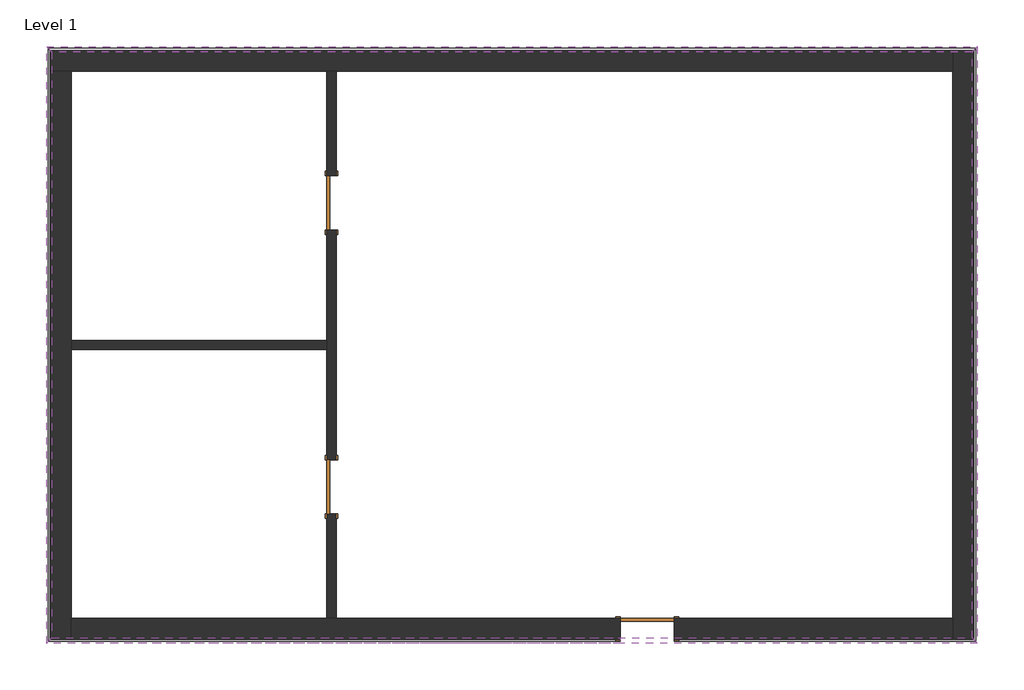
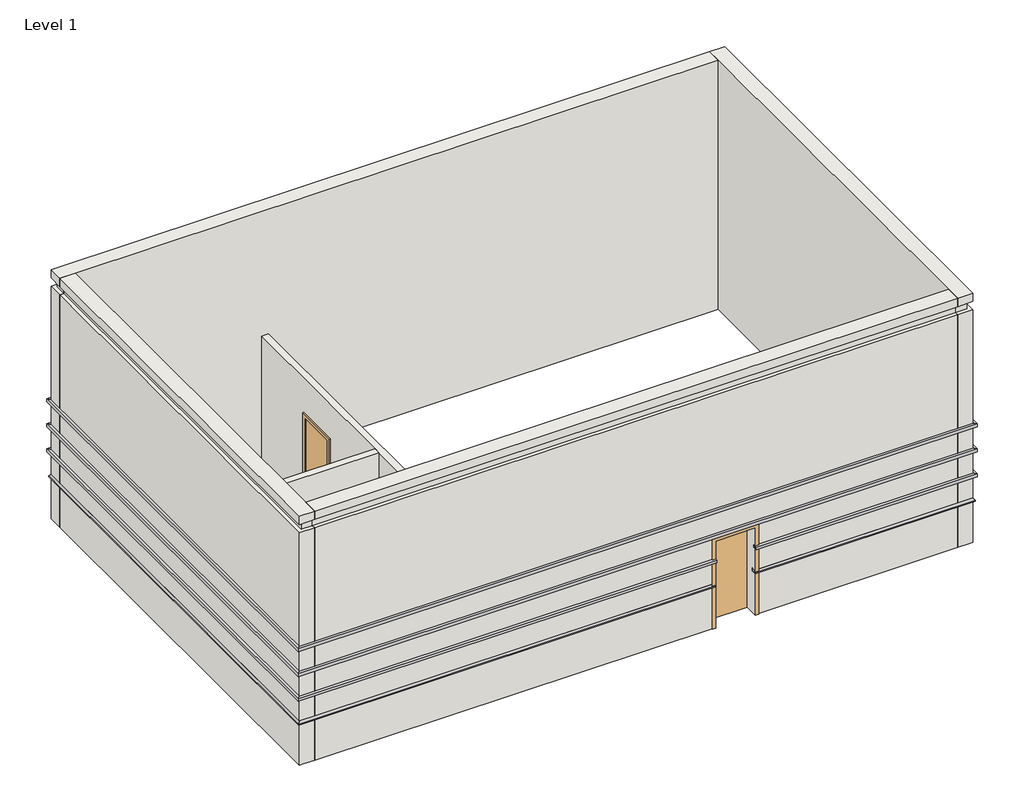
# One storey: 16 proxies, 6 walls, 3 doors.
"""IFC4 building model written with IfcOpenShell, lengths in millimetres."""

from ifc_helpers import new_model, si_unit, frame, origin, origin_with_axes, place, context, project, spatial, polyline, outline, extrude, faceted_brep, transform, mapped, element, save
from components import door_f9494b7c, door_632be17d

model = new_model("IFC4")

# Units and contexts
model_context = context("Model", 3, world=origin())
ifc_project = project(units=[si_unit("LENGTHUNIT", "METRE", prefix="MILLI")], contexts=[model_context])

# Site, building, storey
site = spatial("IfcSite", under=ifc_project)
building = spatial("IfcBuilding", under=site)
storey = spatial("IfcBuildingStorey", under=building, Name="Level 1", Elevation=0.0)

# Proxies
placement = place(None, origin())
element("IfcBuildingElementProxy", 1, Name="Reveals", at=placement, inside=storey, context=model_context, shape_type="SweptSolid", body=[
    extrude(outline(polyline([(-10122.8975534, 7875.7341008), (-10214.9725534, 7967.8091008), (5510.8024466, 7967.8091008), (5418.7274466, 7875.7341008), (-10122.8975534, 7875.7341008)])), frame((0.0, 0.0, 1625.6), z_axis=(0.0, 0.0, 1.0), x_axis=(1.0, 0.0, 0.0)), (0.0, 0.0, 1.0), 67.7333333),
])
element("IfcBuildingElementProxy", 2, Name="Reveals", at=placement, inside=storey, context=model_context, shape_type="SweptSolid", body=[
    extrude(outline(polyline([(-10122.8975534, 7875.7341008), (-10214.9725534, 7967.8091008), (5510.8024466, 7967.8091008), (5418.7274466, 7875.7341008), (-10122.8975534, 7875.7341008)])), frame((0.0, 0.0, 2235.2), z_axis=(0.0, 0.0, 1.0), x_axis=(1.0, 0.0, 0.0)), (0.0, 0.0, 1.0), 67.7333333),
])
element("IfcBuildingElementProxy", 3, Name="Reveals", at=placement, inside=storey, context=model_context, shape_type="SweptSolid", body=[
    extrude(outline(polyline([(-10122.8975534, 7875.7341008), (-10214.9725534, 7967.8091008), (5510.8024466, 7967.8091008), (5418.7274466, 7875.7341008), (-10122.8975534, 7875.7341008)])), frame((0.0, 0.0, 2844.8), z_axis=(0.0, 0.0, 1.0), x_axis=(1.0, 0.0, 0.0)), (0.0, 0.0, 1.0), 67.7333333),
])
element("IfcBuildingElementProxy", 4, Name="Wall Sweeps", at=placement, inside=storey, context=model_context, shape_type="Brep", body=[
    faceted_brep([(-10056.2225534, 7809.0591008, 1085.85), (-10148.2975534, 7901.1341008, 1085.85), (-10183.2225534, 7936.0591008, 1041.4), (-10183.2225534, 7936.0591008, 1016.0), (-10056.2225534, 7809.0591008, 1016.0), (5352.0524466, 7809.0591008, 1085.85), (5352.0524466, 7809.0591008, 1016.0), (5479.0524466, 7936.0591008, 1016.0), (5479.0524466, 7936.0591008, 1041.4), (5444.1274466, 7901.1341008, 1085.85)], [[[0, 1, 2, 3, 4]], [[5, 6, 7, 8, 9]], [[1, 0, 5, 9]], [[2, 1, 9, 8]], [[3, 2, 8, 7]], [[4, 3, 7, 6]], [[0, 4, 6, 5]]]),
])
element("IfcBuildingElementProxy", 5, Name="Reveals", at=placement, inside=storey, context=model_context, shape_type="SweptSolid", body=[
    extrude(outline(polyline([(-10122.8975534, -2027.0908992), (-10214.9725534, -2119.1658992), (-10214.9725534, 7967.8091008), (-10122.8975534, 7875.7341008), (-10122.8975534, -2027.0908992)])), frame((0.0, 0.0, 1625.6), z_axis=(0.0, 0.0, 1.0), x_axis=(1.0, 0.0, 0.0)), (0.0, 0.0, 1.0), 67.7333333),
])
element("IfcBuildingElementProxy", 6, Name="Reveals", at=placement, inside=storey, context=model_context, shape_type="SweptSolid", body=[
    extrude(outline(polyline([(-10122.8975534, -2027.0908992), (-10214.9725534, -2119.1658992), (-10214.9725534, 7967.8091008), (-10122.8975534, 7875.7341008), (-10122.8975534, -2027.0908992)])), frame((0.0, 0.0, 2235.2), z_axis=(0.0, 0.0, 1.0), x_axis=(1.0, 0.0, 0.0)), (0.0, 0.0, 1.0), 67.7333333),
])
element("IfcBuildingElementProxy", 7, Name="Reveals", at=placement, inside=storey, context=model_context, shape_type="SweptSolid", body=[
    extrude(outline(polyline([(-10122.8975534, -2027.0908992), (-10214.9725534, -2119.1658992), (-10214.9725534, 7967.8091008), (-10122.8975534, 7875.7341008), (-10122.8975534, -2027.0908992)])), frame((0.0, 0.0, 2844.8), z_axis=(0.0, 0.0, 1.0), x_axis=(1.0, 0.0, 0.0)), (0.0, 0.0, 1.0), 67.7333333),
])
element("IfcBuildingElementProxy", 8, Name="Wall Sweeps", at=placement, inside=storey, context=model_context, shape_type="Brep", body=[
    faceted_brep([(-10056.2225534, -1960.4158992, 1085.85), (-10148.2975534, -2052.4908992, 1085.85), (-10183.2225534, -2087.4158992, 1041.4), (-10183.2225534, -2087.4158992, 1016.0), (-10056.2225534, -1960.4158992, 1016.0), (-10056.2225534, 7809.0591008, 1085.85), (-10056.2225534, 7809.0591008, 1016.0), (-10183.2225534, 7936.0591008, 1016.0), (-10183.2225534, 7936.0591008, 1041.4), (-10148.2975534, 7901.1341008, 1085.85)], [[[0, 1, 2, 3, 4]], [[5, 6, 7, 8, 9]], [[1, 0, 5, 9]], [[2, 1, 9, 8]], [[3, 2, 8, 7]], [[4, 3, 7, 6]], [[0, 4, 6, 5]]]),
])
element("IfcBuildingElementProxy", 9, Name="Reveals", at=placement, inside=storey, context=model_context, shape_type="SweptSolid", body=[
    extrude(outline(polyline([(5418.7274466, -2027.0908992), (5510.8024466, -2119.1658992), (391.1149466, -2119.1658992), (391.1149466, -2027.0908992), (5418.7274466, -2027.0908992)])), frame((0.0, 0.0, 1625.6), z_axis=(0.0, 0.0, 1.0), x_axis=(1.0, 0.0, 0.0)), (0.0, 0.0, 1.0), 67.7333333),
    extrude(outline(polyline([(-523.2850534, -2027.0908992), (-523.2850534, -2119.1658992), (-10214.9725534, -2119.1658992), (-10122.8975534, -2027.0908992), (-523.2850534, -2027.0908992)])), frame((0.0, 0.0, 1625.6), z_axis=(0.0, 0.0, 1.0), x_axis=(1.0, 0.0, 0.0)), (0.0, 0.0, 1.0), 67.7333333),
])
element("IfcBuildingElementProxy", 10, Name="Reveals", at=placement, inside=storey, context=model_context, shape_type="SweptSolid", body=[
    extrude(outline(polyline([(5418.7274466, -2027.0908992), (5510.8024466, -2119.1658992), (-10214.9725534, -2119.1658992), (-10122.8975534, -2027.0908992), (5418.7274466, -2027.0908992)])), frame((0.0, 0.0, 2235.2), z_axis=(0.0, 0.0, 1.0), x_axis=(1.0, 0.0, 0.0)), (0.0, 0.0, 1.0), 67.7333333),
])
element("IfcBuildingElementProxy", 11, Name="Reveals", at=placement, inside=storey, context=model_context, shape_type="SweptSolid", body=[
    extrude(outline(polyline([(5418.7274466, -2027.0908992), (5510.8024466, -2119.1658992), (-10214.9725534, -2119.1658992), (-10122.8975534, -2027.0908992), (5418.7274466, -2027.0908992)])), frame((0.0, 0.0, 2844.8), z_axis=(0.0, 0.0, 1.0), x_axis=(1.0, 0.0, 0.0)), (0.0, 0.0, 1.0), 67.7333333),
])
element("IfcBuildingElementProxy", 12, Name="Wall Sweeps", at=placement, inside=storey, context=model_context, shape_type="Brep", body=[
    faceted_brep([(5352.0524466, -1960.4158992, 1085.85), (5444.1274466, -2052.4908992, 1085.85), (5479.0524466, -2087.4158992, 1041.4), (5479.0524466, -2087.4158992, 1016.0), (5352.0524466, -1960.4158992, 1016.0), (391.1149466, -1960.4158992, 1085.85), (391.1149466, -1960.4158992, 1016.0), (391.1149466, -2052.4908992, 1016.0), (391.1149466, -2087.4158992, 1016.0), (391.1149466, -2087.4158992, 1041.4), (391.1149466, -2052.4908992, 1085.85)], [[[0, 1, 2, 3, 4]], [[5, 6, 7, 8, 9, 10]], [[1, 0, 5, 10]], [[2, 1, 10, 9]], [[3, 2, 9, 8]], [[4, 3, 8, 7, 6]], [[0, 4, 6, 5]]]),
    faceted_brep([(-523.2850534, -1960.4158992, 1085.85), (-523.2850534, -2052.4908992, 1085.85), (-523.2850534, -2087.4158992, 1041.4), (-523.2850534, -2087.4158992, 1016.0), (-523.2850534, -2052.4908992, 1016.0), (-523.2850534, -1960.4158992, 1016.0), (-10056.2225534, -1960.4158992, 1085.85), (-10056.2225534, -1960.4158992, 1016.0), (-10183.2225534, -2087.4158992, 1016.0), (-10183.2225534, -2087.4158992, 1041.4), (-10148.2975534, -2052.4908992, 1085.85)], [[[0, 1, 2, 3, 4, 5]], [[6, 7, 8, 9, 10]], [[1, 0, 6, 10]], [[2, 1, 10, 9]], [[3, 2, 9, 8]], [[5, 4, 3, 8, 7]], [[0, 5, 7, 6]]]),
])
element("IfcBuildingElementProxy", 13, Name="Reveals", at=placement, inside=storey, context=model_context, shape_type="SweptSolid", body=[
    extrude(outline(polyline([(5418.7274466, 7875.7341008), (5510.8024466, 7967.8091008), (5510.8024466, -2119.1658992), (5418.7274466, -2027.0908992), (5418.7274466, 7875.7341008)])), frame((0.0, 0.0, 1625.6), z_axis=(0.0, 0.0, 1.0), x_axis=(1.0, 0.0, 0.0)), (0.0, 0.0, 1.0), 67.7333333),
])
element("IfcBuildingElementProxy", 14, Name="Reveals", at=placement, inside=storey, context=model_context, shape_type="SweptSolid", body=[
    extrude(outline(polyline([(5418.7274466, 7875.7341008), (5510.8024466, 7967.8091008), (5510.8024466, -2119.1658992), (5418.7274466, -2027.0908992), (5418.7274466, 7875.7341008)])), frame((0.0, 0.0, 2235.2), z_axis=(0.0, 0.0, 1.0), x_axis=(1.0, 0.0, 0.0)), (0.0, 0.0, 1.0), 67.7333333),
])
element("IfcBuildingElementProxy", 15, Name="Reveals", at=placement, inside=storey, context=model_context, shape_type="SweptSolid", body=[
    extrude(outline(polyline([(5418.7274466, 7875.7341008), (5510.8024466, 7967.8091008), (5510.8024466, -2119.1658992), (5418.7274466, -2027.0908992), (5418.7274466, 7875.7341008)])), frame((0.0, 0.0, 2844.8), z_axis=(0.0, 0.0, 1.0), x_axis=(1.0, 0.0, 0.0)), (0.0, 0.0, 1.0), 67.7333333),
])
element("IfcBuildingElementProxy", 16, Name="Wall Sweeps", at=placement, inside=storey, context=model_context, shape_type="Brep", body=[
    faceted_brep([(5352.0524466, 7809.0591008, 1085.85), (5444.1274466, 7901.1341008, 1085.85), (5479.0524466, 7936.0591008, 1041.4), (5479.0524466, 7936.0591008, 1016.0), (5352.0524466, 7809.0591008, 1016.0), (5352.0524466, -1960.4158992, 1085.85), (5352.0524466, -1960.4158992, 1016.0), (5479.0524466, -2087.4158992, 1016.0), (5479.0524466, -2087.4158992, 1041.4), (5444.1274466, -2052.4908992, 1085.85)], [[[0, 1, 2, 3, 4]], [[5, 6, 7, 8, 9]], [[1, 0, 5, 9]], [[2, 1, 9, 8]], [[3, 2, 8, 7]], [[4, 3, 7, 6]], [[0, 4, 6, 5]]]),
])

# Doors
door_shape = door_f9494b7c(model_context)
element("IfcDoor", 17, ObjectType="Single-Flush : 36\" x 84\"", at=placement, inside=storey, context=model_context, shape_type="MappedRepresentation", body=[
    mapped(door_shape, transform((-5400.0850534, 5324.6216008, 0.0), x_axis=(0.0, 1.0, 0.0), y_axis=(-1.0, 0.0, 0.0), z_axis=(0.0, 0.0, 1.0))),
])
element("IfcDoor", 18, ObjectType="Single-Flush : 36\" x 84\"", at=placement, inside=storey, context=model_context, shape_type="MappedRepresentation", body=[
    mapped(door_shape, transform((-5400.0850534, 524.0216008, 0.0), x_axis=(0.0, 1.0, 0.0), y_axis=(-1.0, 0.0, 0.0), z_axis=(0.0, 0.0, 1.0))),
])
door_2_shape = door_632be17d(model_context)
element("IfcDoor", 19, ObjectType="Single-Flush : 36\" x 84\"", at=placement, inside=storey, context=model_context, shape_type="MappedRepresentation", body=[
    mapped(door_2_shape, transform((-66.0850534, -1876.2783992, 0.0), x_axis=(1.0, 0.0, 0.0), y_axis=(0.0, 1.0, 0.0), z_axis=(0.0, 0.0, 1.0))),
])

# Walls
element("IfcWall", 20, ObjectType="Exterior - Brick and CMU on MTL. Stud", at=placement, inside=storey, context=model_context, shape_type="Brep", body=[
    faceted_brep([(-10148.2975534, 7548.7091008, 0.0), (-9795.8725534, 7548.7091008, 0.0), (-5477.8725534, 7548.7091008, 0.0), (-5322.2975534, 7548.7091008, 0.0), (5091.7024466, 7548.7091008, 0.0), (5091.7024466, 7548.7091008, 6096.0), (-9795.8725534, 7548.7091008, 6096.0), (-10148.2975534, 7548.7091008, 6096.0), (-10148.2975534, 7548.7091008, 5892.8), (-10056.2225534, 7548.7091008, 5892.8), (-10056.2225534, 7548.7091008, 5689.6), (-10148.2975534, 7548.7091008, 5689.6), (-10148.2975534, 7548.7091008, 2912.5333333), (-10122.8975534, 7548.7091008, 2912.5333333), (-10122.8975534, 7548.7091008, 2844.8), (-10148.2975534, 7548.7091008, 2844.8), (-10148.2975534, 7548.7091008, 2302.9333333), (-10122.8975534, 7548.7091008, 2302.9333333), (-10122.8975534, 7548.7091008, 2235.2), (-10148.2975534, 7548.7091008, 2235.2), (-10148.2975534, 7548.7091008, 1693.3333333), (-10122.8975534, 7548.7091008, 1693.3333333), (-10122.8975534, 7548.7091008, 1625.6), (-10148.2975534, 7548.7091008, 1625.6), (-10148.2975534, 7548.7091008, 1085.85), (-10056.2225534, 7548.7091008, 1085.85), (-10056.2225534, 7548.7091008, 1016.0), (-10148.2975534, 7548.7091008, 1016.0), (-10148.2975534, 7901.1341008, 6096.0), (5091.7024466, 7901.1341008, 6096.0), (5091.7024466, 7901.1341008, 5892.8), (-10148.2975534, 7901.1341008, 5892.8), (5091.7024466, 7901.1341008, 0.0), (-10148.2975534, 7901.1341008, 0.0), (-10148.2975534, 7901.1341008, 1016.0), (5091.7024466, 7901.1341008, 1016.0), (5091.7024466, 7901.1341008, 1693.3333333), (-10148.2975534, 7901.1341008, 1693.3333333), (-10148.2975534, 7901.1341008, 2235.2), (5091.7024466, 7901.1341008, 2235.2), (-10148.2975534, 7901.1341008, 1625.6), (5091.7024466, 7901.1341008, 1625.6), (5091.7024466, 7901.1341008, 1085.85), (-10148.2975534, 7901.1341008, 1085.85), (5091.7024466, 7901.1341008, 2302.9333333), (-10148.2975534, 7901.1341008, 2302.9333333), (-10148.2975534, 7901.1341008, 2844.8), (5091.7024466, 7901.1341008, 2844.8), (5091.7024466, 7901.1341008, 2912.5333333), (-10148.2975534, 7901.1341008, 2912.5333333), (-10148.2975534, 7901.1341008, 5689.6), (5091.7024466, 7901.1341008, 5689.6), (-10148.2975534, 7809.0591008, 0.0), (5091.7024466, 7809.0591008, 0.0), (5091.7024466, 7809.0591008, 1016.0), (5091.7024466, 7809.0591008, 1085.85), (5091.7024466, 7875.7341008, 1625.6), (5091.7024466, 7875.7341008, 1693.3333333), (5091.7024466, 7875.7341008, 2235.2), (5091.7024466, 7875.7341008, 2302.9333333), (5091.7024466, 7875.7341008, 2844.8), (5091.7024466, 7875.7341008, 2912.5333333), (5091.7024466, 7809.0591008, 5689.6), (5091.7024466, 7809.0591008, 5892.8), (-10122.8975534, 7875.7341008, 1693.3333333), (-10122.8975534, 7875.7341008, 1625.6), (-10122.8975534, 7875.7341008, 2302.9333333), (-10122.8975534, 7875.7341008, 2235.2), (-10122.8975534, 7875.7341008, 2912.5333333), (-10122.8975534, 7875.7341008, 2844.8), (-10056.2225534, 7809.0591008, 1085.85), (-10056.2225534, 7809.0591008, 1016.0), (-10056.2225534, 7809.0591008, 5689.6), (-10056.2225534, 7809.0591008, 5892.8)], [[[0, 1, 2, 3, 4, 5, 6, 7, 8, 9, 10, 11, 12, 13, 14, 15, 16, 17, 18, 19, 20, 21, 22, 23, 24, 25, 26, 27]], [[28, 29, 30, 31]], [[32, 33, 34, 35]], [[36, 37, 38, 39]], [[40, 41, 42, 43]], [[44, 45, 46, 47]], [[48, 49, 50, 51]], [[7, 6, 5, 29, 28]], [[7, 28, 31, 8]], [[52, 0, 27, 34, 33]], [[37, 20, 19, 38]], [[23, 40, 43, 24]], [[45, 16, 15, 46]], [[49, 12, 11, 50]], [[5, 4, 53, 32, 35, 54, 55, 42, 41, 56, 57, 36, 39, 58, 59, 44, 47, 60, 61, 48, 51, 62, 63, 30, 29]], [[4, 3, 2, 1, 0, 52, 53]], [[52, 33, 32, 53]], [[57, 64, 21, 20, 37, 36]], [[65, 56, 41, 40, 23, 22]], [[64, 65, 22, 21]], [[65, 64, 57, 56]], [[59, 66, 17, 16, 45, 44]], [[67, 58, 39, 38, 19, 18]], [[66, 67, 18, 17]], [[67, 66, 59, 58]], [[61, 68, 13, 12, 49, 48]], [[69, 60, 47, 46, 15, 14]], [[68, 69, 14, 13]], [[69, 68, 61, 60]], [[55, 70, 25, 24, 43, 42]], [[71, 54, 35, 34, 27, 26]], [[70, 71, 26, 25]], [[71, 70, 55, 54]], [[72, 62, 51, 50, 11, 10]], [[73, 72, 10, 9]], [[63, 73, 9, 8, 31, 30]], [[72, 73, 63, 62]]]),
])
element("IfcWall", 21, ObjectType="Exterior - Brick and CMU on MTL. Stud", at=placement, inside=storey, context=model_context, shape_type="Brep", body=[
    faceted_brep([(-9795.8725534, -2052.4908992, 0.0), (-9795.8725534, -1700.0658992, 0.0), (-9795.8725534, 2846.5341008, 0.0), (-9795.8725534, 3002.1091008, 0.0), (-9795.8725534, 7548.7091008, 0.0), (-9795.8725534, 7548.7091008, 6096.0), (-9795.8725534, -1700.0658992, 6096.0), (-9795.8725534, -2052.4908992, 6096.0), (-9795.8725534, -2052.4908992, 5892.8), (-9795.8725534, -1960.4158992, 5892.8), (-9795.8725534, -1960.4158992, 5689.6), (-9795.8725534, -2052.4908992, 5689.6), (-9795.8725534, -2052.4908992, 2912.5333333), (-9795.8725534, -2027.0908992, 2912.5333333), (-9795.8725534, -2027.0908992, 2844.8), (-9795.8725534, -2052.4908992, 2844.8), (-9795.8725534, -2052.4908992, 2302.9333333), (-9795.8725534, -2027.0908992, 2302.9333333), (-9795.8725534, -2027.0908992, 2235.2), (-9795.8725534, -2052.4908992, 2235.2), (-9795.8725534, -2052.4908992, 1693.3333333), (-9795.8725534, -2027.0908992, 1693.3333333), (-9795.8725534, -2027.0908992, 1625.6), (-9795.8725534, -2052.4908992, 1625.6), (-9795.8725534, -2052.4908992, 1085.85), (-9795.8725534, -1960.4158992, 1085.85), (-9795.8725534, -1960.4158992, 1016.0), (-9795.8725534, -2052.4908992, 1016.0), (-10148.2975534, -2052.4908992, 6096.0), (-10148.2975534, 7548.7091008, 6096.0), (-10148.2975534, 7548.7091008, 5892.8), (-10148.2975534, -2052.4908992, 5892.8), (-10148.2975534, 7548.7091008, 0.0), (-10148.2975534, -2052.4908992, 0.0), (-10148.2975534, -2052.4908992, 1016.0), (-10148.2975534, 7548.7091008, 1016.0), (-10148.2975534, 7548.7091008, 1693.3333333), (-10148.2975534, -2052.4908992, 1693.3333333), (-10148.2975534, -2052.4908992, 2235.2), (-10148.2975534, 7548.7091008, 2235.2), (-10148.2975534, -2052.4908992, 1625.6), (-10148.2975534, 7548.7091008, 1625.6), (-10148.2975534, 7548.7091008, 1085.85), (-10148.2975534, -2052.4908992, 1085.85), (-10148.2975534, 7548.7091008, 2302.9333333), (-10148.2975534, -2052.4908992, 2302.9333333), (-10148.2975534, -2052.4908992, 2844.8), (-10148.2975534, 7548.7091008, 2844.8), (-10148.2975534, 7548.7091008, 2912.5333333), (-10148.2975534, -2052.4908992, 2912.5333333), (-10148.2975534, -2052.4908992, 5689.6), (-10148.2975534, 7548.7091008, 5689.6), (-10056.2225534, -2052.4908992, 0.0), (-10056.2225534, 7548.7091008, 0.0), (-10056.2225534, 7548.7091008, 1016.0), (-10056.2225534, 7548.7091008, 1085.85), (-10122.8975534, 7548.7091008, 1625.6), (-10122.8975534, 7548.7091008, 1693.3333333), (-10122.8975534, 7548.7091008, 2235.2), (-10122.8975534, 7548.7091008, 2302.9333333), (-10122.8975534, 7548.7091008, 2844.8), (-10122.8975534, 7548.7091008, 2912.5333333), (-10056.2225534, 7548.7091008, 5689.6), (-10056.2225534, 7548.7091008, 5892.8), (-10122.8975534, -2027.0908992, 1693.3333333), (-10122.8975534, -2027.0908992, 1625.6), (-10122.8975534, -2027.0908992, 2302.9333333), (-10122.8975534, -2027.0908992, 2235.2), (-10122.8975534, -2027.0908992, 2912.5333333), (-10122.8975534, -2027.0908992, 2844.8), (-10056.2225534, -1960.4158992, 1085.85), (-10056.2225534, -1960.4158992, 1016.0), (-10056.2225534, -1960.4158992, 5689.6), (-10056.2225534, -1960.4158992, 5892.8)], [[[0, 1, 2, 3, 4, 5, 6, 7, 8, 9, 10, 11, 12, 13, 14, 15, 16, 17, 18, 19, 20, 21, 22, 23, 24, 25, 26, 27]], [[28, 29, 30, 31]], [[32, 33, 34, 35]], [[36, 37, 38, 39]], [[40, 41, 42, 43]], [[44, 45, 46, 47]], [[48, 49, 50, 51]], [[7, 6, 5, 29, 28]], [[7, 28, 31, 8]], [[52, 0, 27, 34, 33]], [[37, 20, 19, 38]], [[23, 40, 43, 24]], [[45, 16, 15, 46]], [[49, 12, 11, 50]], [[5, 4, 53, 32, 35, 54, 55, 42, 41, 56, 57, 36, 39, 58, 59, 44, 47, 60, 61, 48, 51, 62, 63, 30, 29]], [[4, 3, 2, 1, 0, 52, 53]], [[52, 33, 32, 53]], [[57, 64, 21, 20, 37, 36]], [[65, 56, 41, 40, 23, 22]], [[64, 65, 22, 21]], [[65, 64, 57, 56]], [[59, 66, 17, 16, 45, 44]], [[67, 58, 39, 38, 19, 18]], [[66, 67, 18, 17]], [[67, 66, 59, 58]], [[61, 68, 13, 12, 49, 48]], [[69, 60, 47, 46, 15, 14]], [[68, 69, 14, 13]], [[69, 68, 61, 60]], [[55, 70, 25, 24, 43, 42]], [[71, 54, 35, 34, 27, 26]], [[70, 71, 26, 25]], [[71, 70, 55, 54]], [[72, 62, 51, 50, 11, 10]], [[73, 72, 10, 9]], [[63, 73, 9, 8, 31, 30]], [[72, 73, 63, 62]]]),
])
element("IfcWall", 22, ObjectType="Exterior - Brick and CMU on MTL. Stud", at=placement, inside=storey, context=model_context, shape_type="Brep", body=[
    faceted_brep([(-9795.8725534, -1700.0658992, 6096.0), (5091.7024466, -1700.0658992, 6096.0), (5091.7024466, -1700.0658992, 0.0), (391.1149466, -1700.0658992, 0.0), (391.1149466, -1700.0658992, 2133.6), (-523.2850534, -1700.0658992, 2133.6), (-523.2850534, -1700.0658992, 0.0), (-5322.2975534, -1700.0658992, 0.0), (-5477.8725534, -1700.0658992, 0.0), (-9795.8725534, -1700.0658992, 0.0), (5091.7024466, -2052.4908992, 6096.0), (-9795.8725534, -2052.4908992, 6096.0), (-9795.8725534, -2052.4908992, 5892.8), (5091.7024466, -2052.4908992, 5892.8), (391.1149466, -2052.4908992, 0.0), (5091.7024466, -2052.4908992, 0.0), (5091.7024466, -2052.4908992, 1016.0), (391.1149466, -2052.4908992, 1016.0), (-9795.8725534, -2052.4908992, 0.0), (-523.2850534, -2052.4908992, 0.0), (-523.2850534, -2052.4908992, 1016.0), (-9795.8725534, -2052.4908992, 1016.0), (-523.2850534, -2052.4908992, 2133.6), (391.1149466, -2052.4908992, 2133.6), (391.1149466, -2052.4908992, 1693.3333333), (5091.7024466, -2052.4908992, 1693.3333333), (5091.7024466, -2052.4908992, 2235.2), (-9795.8725534, -2052.4908992, 2235.2), (-9795.8725534, -2052.4908992, 1693.3333333), (-523.2850534, -2052.4908992, 1693.3333333), (-523.2850534, -2052.4908992, 1625.6), (-9795.8725534, -2052.4908992, 1625.6), (-9795.8725534, -2052.4908992, 1085.85), (-523.2850534, -2052.4908992, 1085.85), (5091.7024466, -2052.4908992, 1625.6), (391.1149466, -2052.4908992, 1625.6), (391.1149466, -2052.4908992, 1085.85), (5091.7024466, -2052.4908992, 1085.85), (-9795.8725534, -2052.4908992, 2302.9333333), (5091.7024466, -2052.4908992, 2302.9333333), (5091.7024466, -2052.4908992, 2844.8), (-9795.8725534, -2052.4908992, 2844.8), (-9795.8725534, -2052.4908992, 2912.5333333), (5091.7024466, -2052.4908992, 2912.5333333), (5091.7024466, -2052.4908992, 5689.6), (-9795.8725534, -2052.4908992, 5689.6), (-9795.8725534, -1960.4158992, 0.0), (-9795.8725534, -1960.4158992, 1016.0), (-9795.8725534, -1960.4158992, 1085.85), (-9795.8725534, -2027.0908992, 1625.6), (-9795.8725534, -2027.0908992, 1693.3333333), (-9795.8725534, -2027.0908992, 2235.2), (-9795.8725534, -2027.0908992, 2302.9333333), (-9795.8725534, -2027.0908992, 2844.8), (-9795.8725534, -2027.0908992, 2912.5333333), (-9795.8725534, -1960.4158992, 5689.6), (-9795.8725534, -1960.4158992, 5892.8), (5091.7024466, -1960.4158992, 5892.8), (5091.7024466, -1960.4158992, 5689.6), (5091.7024466, -2027.0908992, 2912.5333333), (5091.7024466, -2027.0908992, 2844.8), (5091.7024466, -2027.0908992, 2302.9333333), (5091.7024466, -2027.0908992, 2235.2), (5091.7024466, -2027.0908992, 1693.3333333), (5091.7024466, -2027.0908992, 1625.6), (5091.7024466, -1960.4158992, 1085.85), (5091.7024466, -1960.4158992, 1016.0), (5091.7024466, -1960.4158992, 0.0), (-523.2850534, -1960.4158992, 0.0), (391.1149466, -1960.4158992, 0.0), (391.1149466, -1960.4158992, 1016.0), (391.1149466, -1960.4158992, 1085.85), (391.1149466, -2027.0908992, 1625.6), (391.1149466, -2027.0908992, 1693.3333333), (-523.2850534, -2027.0908992, 1693.3333333), (-523.2850534, -2027.0908992, 1625.6), (-523.2850534, -1960.4158992, 1085.85), (-523.2850534, -1960.4158992, 1016.0)], [[[0, 1, 2, 3, 4, 5, 6, 7, 8, 9]], [[10, 11, 12, 13]], [[14, 15, 16, 17]], [[18, 19, 20, 21]], [[22, 23, 24, 25, 26, 27, 28, 29]], [[30, 31, 32, 33]], [[34, 35, 36, 37]], [[38, 39, 40, 41]], [[42, 43, 44, 45]], [[1, 0, 11, 10]], [[0, 9, 46, 18, 21, 47, 48, 32, 31, 49, 50, 28, 27, 51, 52, 38, 41, 53, 54, 42, 45, 55, 56, 12, 11]], [[2, 1, 10, 13, 57, 58, 44, 43, 59, 60, 40, 39, 61, 62, 26, 25, 63, 64, 34, 37, 65, 66, 16, 15, 67]], [[46, 9, 8, 7, 6, 68]], [[2, 67, 69, 3]], [[67, 15, 14, 69]], [[18, 46, 68, 19]], [[23, 4, 3, 69, 14, 17, 70, 71, 36, 35, 72, 73, 24]], [[4, 23, 22, 5]], [[5, 22, 29, 74, 75, 30, 33, 76, 77, 20, 19, 68, 6]], [[73, 63, 25, 24]], [[64, 72, 35, 34]], [[63, 73, 72, 64]], [[50, 74, 29, 28]], [[75, 49, 31, 30]], [[74, 50, 49, 75]], [[52, 61, 39, 38]], [[62, 51, 27, 26]], [[51, 62, 61, 52]], [[54, 59, 43, 42]], [[60, 53, 41, 40]], [[53, 60, 59, 54]], [[71, 65, 37, 36]], [[66, 70, 17, 16]], [[65, 71, 70, 66]], [[48, 76, 33, 32]], [[77, 47, 21, 20]], [[76, 48, 47, 77]], [[58, 55, 45, 44]], [[56, 57, 13, 12]], [[55, 58, 57, 56]]]),
])
element("IfcWall", 23, ObjectType="Exterior - Brick and CMU on MTL. Stud", at=placement, inside=storey, context=model_context, shape_type="Brep", body=[
    faceted_brep([(5091.7024466, 7901.1341008, 0.0), (5091.7024466, 7548.7091008, 0.0), (5091.7024466, -1700.0658992, 0.0), (5091.7024466, -2052.4908992, 0.0), (5091.7024466, -2052.4908992, 1016.0), (5091.7024466, -1960.4158992, 1016.0), (5091.7024466, -1960.4158992, 1085.85), (5091.7024466, -2052.4908992, 1085.85), (5091.7024466, -2052.4908992, 1625.6), (5091.7024466, -2027.0908992, 1625.6), (5091.7024466, -2027.0908992, 1693.3333333), (5091.7024466, -2052.4908992, 1693.3333333), (5091.7024466, -2052.4908992, 2235.2), (5091.7024466, -2027.0908992, 2235.2), (5091.7024466, -2027.0908992, 2302.9333333), (5091.7024466, -2052.4908992, 2302.9333333), (5091.7024466, -2052.4908992, 2844.8), (5091.7024466, -2027.0908992, 2844.8), (5091.7024466, -2027.0908992, 2912.5333333), (5091.7024466, -2052.4908992, 2912.5333333), (5091.7024466, -2052.4908992, 5689.6), (5091.7024466, -1960.4158992, 5689.6), (5091.7024466, -1960.4158992, 5892.8), (5091.7024466, -2052.4908992, 5892.8), (5091.7024466, -2052.4908992, 6096.0), (5091.7024466, -1700.0658992, 6096.0), (5091.7024466, 7548.7091008, 6096.0), (5091.7024466, 7901.1341008, 6096.0), (5091.7024466, 7901.1341008, 5892.8), (5091.7024466, 7809.0591008, 5892.8), (5091.7024466, 7809.0591008, 5689.6), (5091.7024466, 7901.1341008, 5689.6), (5091.7024466, 7901.1341008, 2912.5333333), (5091.7024466, 7875.7341008, 2912.5333333), (5091.7024466, 7875.7341008, 2844.8), (5091.7024466, 7901.1341008, 2844.8), (5091.7024466, 7901.1341008, 2302.9333333), (5091.7024466, 7875.7341008, 2302.9333333), (5091.7024466, 7875.7341008, 2235.2), (5091.7024466, 7901.1341008, 2235.2), (5091.7024466, 7901.1341008, 1693.3333333), (5091.7024466, 7875.7341008, 1693.3333333), (5091.7024466, 7875.7341008, 1625.6), (5091.7024466, 7901.1341008, 1625.6), (5091.7024466, 7901.1341008, 1085.85), (5091.7024466, 7809.0591008, 1085.85), (5091.7024466, 7809.0591008, 1016.0), (5091.7024466, 7901.1341008, 1016.0), (5444.1274466, 7901.1341008, 6096.0), (5444.1274466, -2052.4908992, 6096.0), (5444.1274466, -2052.4908992, 5892.8), (5444.1274466, 7901.1341008, 5892.8), (5444.1274466, -2052.4908992, 0.0), (5444.1274466, 7901.1341008, 0.0), (5444.1274466, 7901.1341008, 1016.0), (5444.1274466, -2052.4908992, 1016.0), (5444.1274466, -2052.4908992, 1693.3333333), (5444.1274466, 7901.1341008, 1693.3333333), (5444.1274466, 7901.1341008, 2235.2), (5444.1274466, -2052.4908992, 2235.2), (5444.1274466, 7901.1341008, 1625.6), (5444.1274466, -2052.4908992, 1625.6), (5444.1274466, -2052.4908992, 1085.85), (5444.1274466, 7901.1341008, 1085.85), (5444.1274466, -2052.4908992, 2302.9333333), (5444.1274466, 7901.1341008, 2302.9333333), (5444.1274466, 7901.1341008, 2844.8), (5444.1274466, -2052.4908992, 2844.8), (5444.1274466, -2052.4908992, 2912.5333333), (5444.1274466, 7901.1341008, 2912.5333333), (5444.1274466, 7901.1341008, 5689.6), (5444.1274466, -2052.4908992, 5689.6), (5352.0524466, 7901.1341008, 0.0), (5352.0524466, -2052.4908992, 0.0), (5418.7274466, -2027.0908992, 1693.3333333), (5418.7274466, 7875.7341008, 1693.3333333), (5418.7274466, 7875.7341008, 1625.6), (5418.7274466, -2027.0908992, 1625.6), (5418.7274466, -2027.0908992, 2302.9333333), (5418.7274466, 7875.7341008, 2302.9333333), (5418.7274466, 7875.7341008, 2235.2), (5418.7274466, -2027.0908992, 2235.2), (5418.7274466, -2027.0908992, 2912.5333333), (5418.7274466, 7875.7341008, 2912.5333333), (5418.7274466, 7875.7341008, 2844.8), (5418.7274466, -2027.0908992, 2844.8), (5352.0524466, -1960.4158992, 1085.85), (5352.0524466, 7809.0591008, 1085.85), (5352.0524466, 7809.0591008, 1016.0), (5352.0524466, -1960.4158992, 1016.0), (5352.0524466, 7809.0591008, 5689.6), (5352.0524466, -1960.4158992, 5689.6), (5352.0524466, 7809.0591008, 5892.8), (5352.0524466, -1960.4158992, 5892.8)], [[[0, 1, 2, 3, 4, 5, 6, 7, 8, 9, 10, 11, 12, 13, 14, 15, 16, 17, 18, 19, 20, 21, 22, 23, 24, 25, 26, 27, 28, 29, 30, 31, 32, 33, 34, 35, 36, 37, 38, 39, 40, 41, 42, 43, 44, 45, 46, 47]], [[48, 49, 50, 51]], [[52, 53, 54, 55]], [[56, 57, 58, 59]], [[60, 61, 62, 63]], [[64, 65, 66, 67]], [[68, 69, 70, 71]], [[27, 26, 25, 24, 49, 48]], [[27, 48, 51, 28]], [[72, 0, 47, 54, 53]], [[57, 40, 39, 58]], [[43, 60, 63, 44]], [[65, 36, 35, 66]], [[69, 32, 31, 70]], [[49, 24, 23, 50]], [[3, 73, 52, 55, 4]], [[11, 56, 59, 12]], [[61, 8, 7, 62]], [[15, 64, 67, 16]], [[19, 68, 71, 20]], [[3, 2, 1, 0, 72, 73]], [[72, 53, 52, 73]], [[74, 75, 41, 40, 57, 56, 11, 10]], [[76, 77, 9, 8, 61, 60, 43, 42]], [[75, 76, 42, 41]], [[75, 74, 77, 76]], [[77, 74, 10, 9]], [[78, 79, 37, 36, 65, 64, 15, 14]], [[80, 81, 13, 12, 59, 58, 39, 38]], [[79, 80, 38, 37]], [[79, 78, 81, 80]], [[81, 78, 14, 13]], [[82, 83, 33, 32, 69, 68, 19, 18]], [[84, 85, 17, 16, 67, 66, 35, 34]], [[83, 84, 34, 33]], [[83, 82, 85, 84]], [[85, 82, 18, 17]], [[86, 87, 45, 44, 63, 62, 7, 6]], [[88, 89, 5, 4, 55, 54, 47, 46]], [[87, 88, 46, 45]], [[87, 86, 89, 88]], [[89, 86, 6, 5]], [[90, 91, 21, 20, 71, 70, 31, 30]], [[92, 90, 30, 29]], [[93, 92, 29, 28, 51, 50, 23, 22]], [[91, 90, 92, 93]], [[91, 93, 22, 21]]]),
])
element("IfcWall", 24, ObjectType="Interior - 6 1/8\" Partition (2-hr)", at=placement, inside=storey, context=model_context, shape_type="Brep", body=[
    faceted_brep([(-5477.8725534, 4867.4216008, 0.0), (-5477.8725534, 3002.1091008, 0.0), (-5477.8725534, 2846.5341008, 0.0), (-5477.8725534, 981.2216008, 0.0), (-5477.8725534, 981.2216008, 2133.6), (-5477.8725534, 66.8216008, 2133.6), (-5477.8725534, 66.8216008, 0.0), (-5477.8725534, -1700.0658992, 0.0), (-5477.8725534, -1700.0658992, 3048.0), (-5477.8725534, 2846.5341008, 3048.0), (-5477.8725534, 3002.1091008, 3048.0), (-5477.8725534, 7548.7091008, 3048.0), (-5477.8725534, 7548.7091008, 0.0), (-5477.8725534, 5781.8216008, 0.0), (-5477.8725534, 5781.8216008, 2133.6), (-5477.8725534, 4867.4216008, 2133.6), (-5322.2975534, 981.2216008, 2133.6), (-5322.2975534, 981.2216008, 0.0), (-5322.2975534, 4867.4216008, 0.0), (-5322.2975534, 4867.4216008, 2133.6), (-5322.2975534, 5781.8216008, 2133.6), (-5322.2975534, 5781.8216008, 0.0), (-5322.2975534, 7548.7091008, 0.0), (-5322.2975534, 7548.7091008, 3048.0), (-5322.2975534, -1700.0658992, 3048.0), (-5322.2975534, -1700.0658992, 0.0), (-5322.2975534, 66.8216008, 0.0), (-5322.2975534, 66.8216008, 2133.6)], [[[0, 1, 2, 3, 4, 5, 6, 7, 8, 9, 10, 11, 12, 13, 14, 15]], [[16, 17, 18, 19, 20, 21, 22, 23, 24, 25, 26, 27]], [[22, 21, 13, 12]], [[18, 17, 3, 2, 1, 0]], [[26, 25, 7, 6]], [[11, 10, 9, 8, 24, 23]], [[12, 11, 23, 22]], [[8, 7, 25, 24]], [[14, 13, 21, 20]], [[15, 14, 20, 19]], [[0, 15, 19, 18]], [[4, 3, 17, 16]], [[5, 4, 16, 27]], [[6, 5, 27, 26]]]),
])
element("IfcWall", 25, ObjectType="Interior - 6 1/8\" Partition (2-hr)", at=placement, inside=storey, context=model_context, shape_type="SweptSolid", body=[
    extrude(outline(polyline([(-5477.8725534, 2846.5341008), (-9795.8725534, 2846.5341008), (-9795.8725534, 3002.1091008), (-5477.8725534, 3002.1091008), (-5477.8725534, 2846.5341008)])), origin_with_axes(), (0.0, 0.0, 1.0), 3048.0),
])

save(model, "model.ifc")
